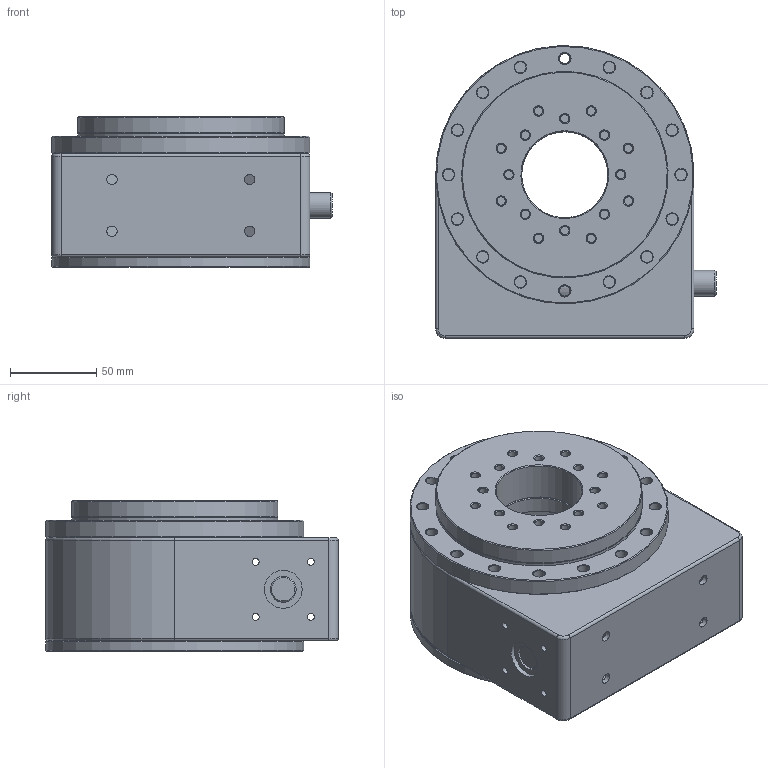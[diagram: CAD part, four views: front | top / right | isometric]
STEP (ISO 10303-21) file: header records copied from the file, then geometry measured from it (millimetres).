
FILE_DESCRIPTION((''),'2;1');
FILE_NAME('I:\Gleitlager\Konstruktion\robolink\Vorserie\RL-D\RL-D Gelenke\RL-D-50-1xx\Simpel\# RL-D-50-102-48-00035.stp','2015-04-28T14:30:24',('mraak'),(''),'Autodesk Inventor 2013','Autodesk Inventor 2013','');
FILE_SCHEMA(('AUTOMOTIVE_DESIGN { 1 0 10303 214 1 1 1 1 }'));
Length unit declared in the file: millimetre
Products named in the file (9): # RL-D-50-102-48-00035; RL-D-50-0XXXX; RL-D-50-X0XXX; PRT-01-50; 11; 9; 10; 1; RL-D-50-XXX4X
Assembly tree (15 placements, depth 3):
  # RL-D-50-102-48-00035
    RL-D-50-0XXXX
    RL-D-50-X0XXX
    PRT-01-50
      11
      9
      10
      1  x8
    RL-D-50-XXX4X
Bounding box: 163 x 170 x 87.5 mm (x, y, z)
Volume: 715331.1 mm3; surface area: 277598.7 mm2
Topology: 14 solids, 14 shells, 510 faces, 1095 edges, 674 vertices
Faces by surface type: cone 192, cylinder 157, plane 143, torus 18
Full cylindrical faces by diameter (mm): 4 x8, 4.92 x16, 6 x32, 6.5 x8, 6.6 x32, 10 x8, 11 x16, 15 x4, 22 x2, 28 x2, 30 x1, 50 x3, 90 x2, 93 x2, 120 x5, 122 x2, 150 x2
Entity records: 9236 total; most frequent: DIRECTION 1720, CARTESIAN_POINT 1368, ORIENTED_EDGE 998, EDGE_LOOP 848, AXIS2_PLACEMENT_3D 833, EDGE_CURVE 499, FACE_BOUND 478, VERTEX_POINT 463
